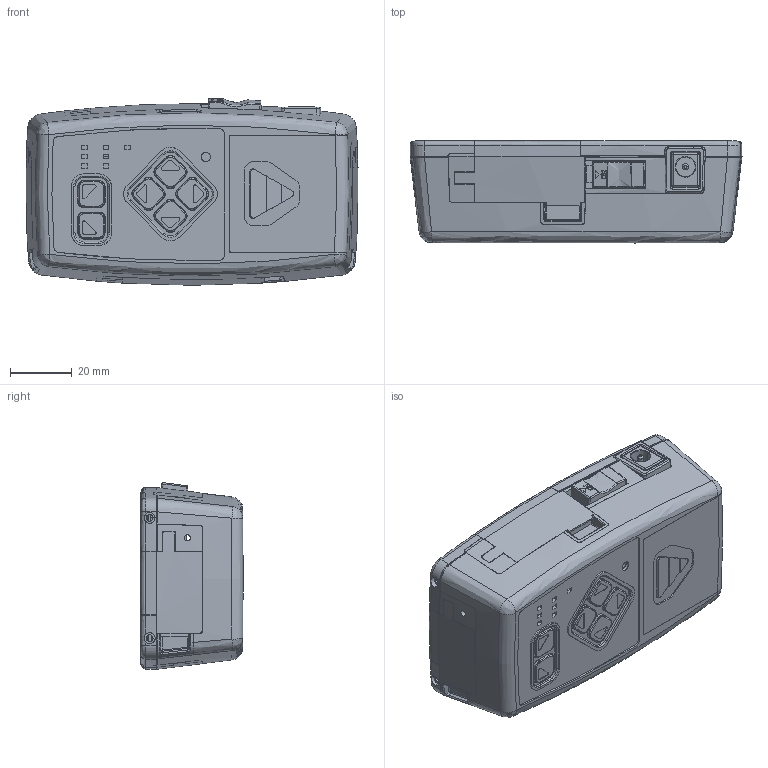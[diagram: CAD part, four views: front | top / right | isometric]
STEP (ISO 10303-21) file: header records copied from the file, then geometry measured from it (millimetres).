
FILE_DESCRIPTION(/* description */ (''),/* implementation_level */ '2;1');
FILE_NAME(/* name */ 'Controller',/* time_stamp */ '2012-01-13T13:28:49+09:00',/* author */ (''),/* organization */ (''),/* preprocessor_version */ 'ST-DEVELOPER v10',/* originating_system */ '',/* authorisation */ '');
FILE_SCHEMA (('AUTOMOTIVE_DESIGN_CC2'));
Products named in the file (10): 1; 2; 3; 4; 5; 6; 7; 8; 9; 10
Assembly tree (9 placements, depth 2):
  1
    2
    3
    4
    5
    6
    7
    8
    9
    10
Bounding box: 107.66 x 33.08 x 60.5 mm (x, y, z)
Volume: 12694.5 mm3; surface area: 77742 mm2
Topology: 15 solids, 61 shells, 3781 faces, 10368 edges, 6746 vertices
Faces by surface type: plane 2561, bspline 1220
Entity records: 117000 total; most frequent: CARTESIAN_POINT 50689, ORIENTED_EDGE 20377, EDGE_CURVE 10355, B_SPLINE_CURVE_WITH_KNOTS 8291, VERTEX_POINT 6746, EDGE_LOOP 4030, ADVANCED_FACE 3781, FACE_OUTER_BOUND 3781
